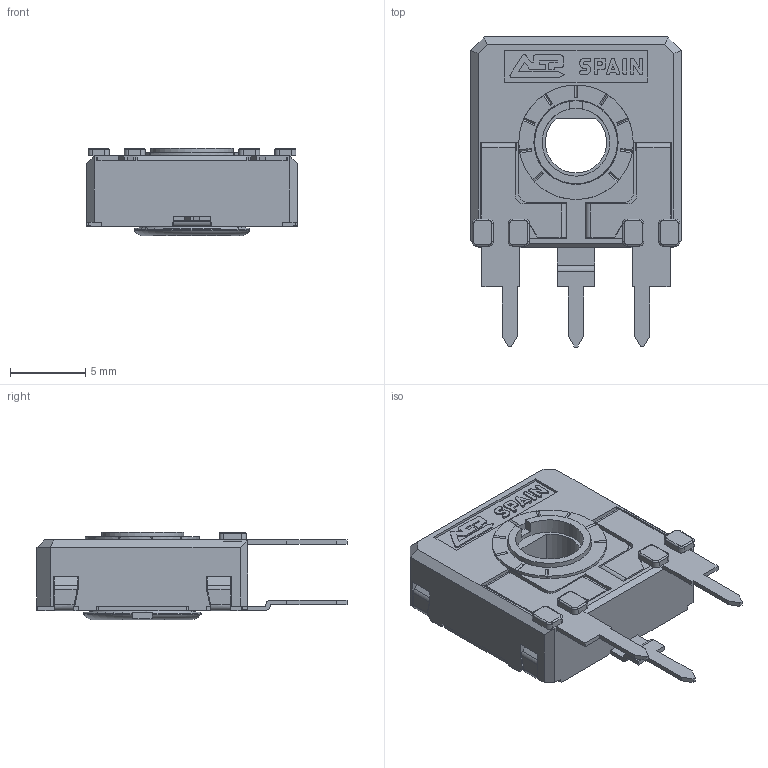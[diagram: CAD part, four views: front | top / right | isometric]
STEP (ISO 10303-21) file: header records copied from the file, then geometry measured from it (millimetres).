
FILE_DESCRIPTION(/* description */ (''),/* implementation_level */ '2;1');
FILE_NAME(/* name */ '\\SERVERACP\intercambio\Ignacio Santa Cecilia\Nueva WEB 2025\CA14 - CE14\CA14DH4.stp',/* time_stamp */ '2025-06-06T09:50:37+02:00',/* author */ ('CEM'),/* organization */ (''),/* preprocessor_version */ 'ST-DEVELOPER v17',/* originating_system */ 'Autodesk Inventor 2018',/* authorisation */ '');
FILE_SCHEMA (('AUTOMOTIVE_DESIGN { 1 0 10303 214 3 1 1 }'));
Length unit declared in the file: millimetre
Products named in the file (1): CARCASA CA14 PGA
Bounding box: 14 x 20.6 x 5.8 mm (x, y, z)
Volume: 526.6 mm3; surface area: 1445.2 mm2
Topology: 1 solids, 1 shells, 663 faces, 1871 edges, 1204 vertices
Faces by surface type: plane 492, cylinder 134, torus 23, bspline 8, cone 6
Full cylindrical faces by diameter (mm): 4.5 x1, 5.5 x1, 5.6 x1, 5.752 x1, 6.8 x1, 7.6 x1
Entity records: 21634 total; most frequent: CARTESIAN_POINT 4036, ORIENTED_EDGE 3742, DIRECTION 3491, EDGE_CURVE 1871, LINE 1473, VECTOR 1473, VERTEX_POINT 1204, AXIS2_PLACEMENT_3D 1009
